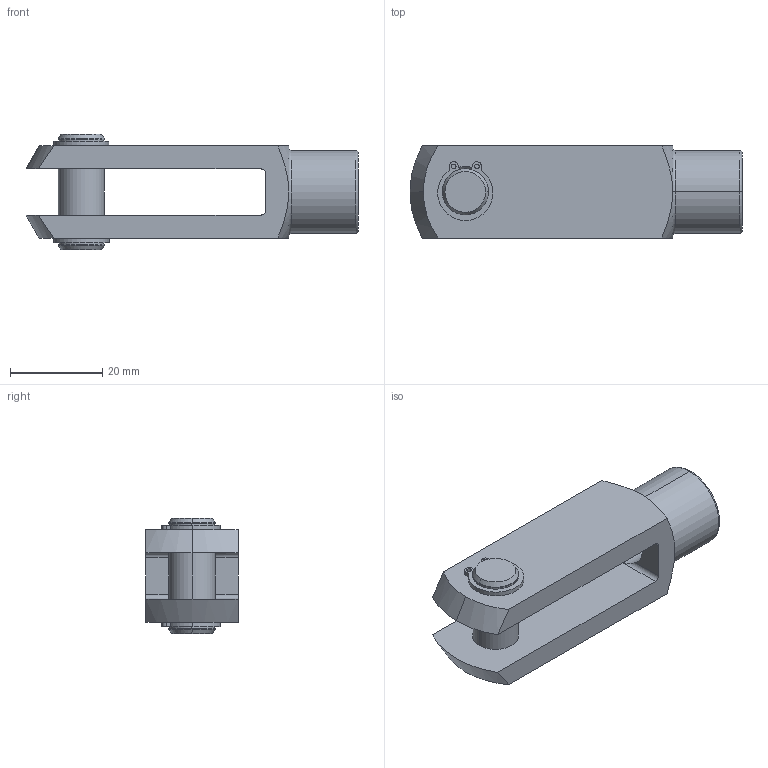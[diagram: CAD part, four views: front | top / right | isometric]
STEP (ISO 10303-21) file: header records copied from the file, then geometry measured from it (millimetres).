
FILE_DESCRIPTION (( 'STEP AP203' ), '1' );
FILE_NAME ('65616.W0105.step', '2014-01-18T10:32:10', ( 'User' ), ( '' ), 'SwSTEP 2.0', 'SolidWorks 2009', '' );
FILE_SCHEMA (( 'CONFIG_CONTROL_DESIGN' ));
Length unit declared in the file: millimetre
Products named in the file (4): 65616.W0105; Part1_65636.W0105; Part2_65666.W0010; Part3_65678.W0010
Assembly tree (4 placements, depth 2):
  65616.W0105
    Part1_65636.W0105
    Part3_65678.W0010  x2
    Part2_65666.W0010
Bounding box: 72 x 20 x 25 mm (x, y, z)
Volume: 15316.9 mm3; surface area: 8589.2 mm2
Topology: 4 solids, 4 shells, 95 faces, 227 edges, 144 vertices
Faces by surface type: cylinder 46, plane 28, cone 17, torus 4
Entity records: 2755 total; most frequent: CARTESIAN_POINT 487, DIRECTION 423, ORIENTED_EDGE 358, EDGE_CURVE 179, AXIS2_PLACEMENT_3D 176, VERTEX_POINT 112, CIRCLE 92, EDGE_LOOP 91
